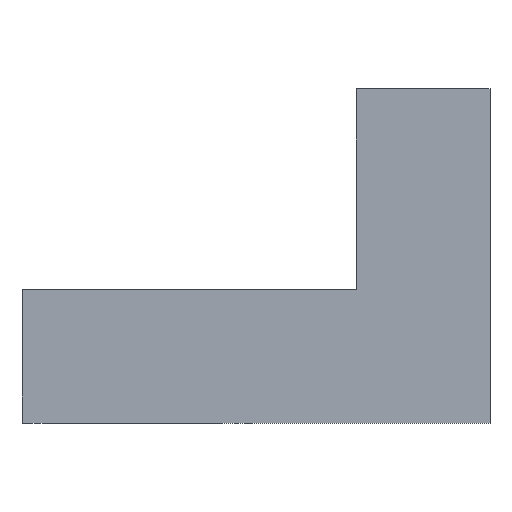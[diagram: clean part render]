
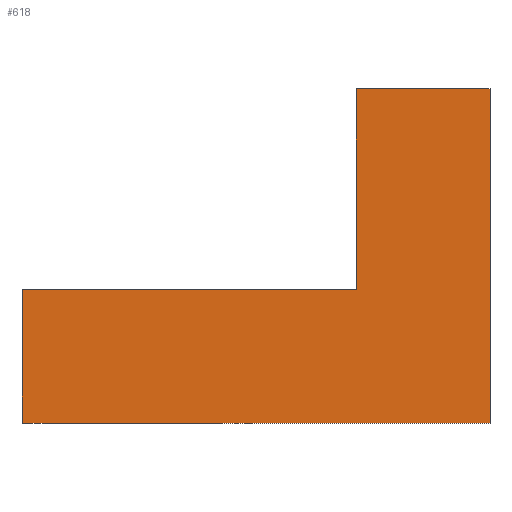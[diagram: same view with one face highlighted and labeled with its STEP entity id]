
A CAD part, front view. The second image highlights one B-rep face of the part: STEP entity #618.
In plain terms, the highlighted planar face has unit normal (0, -1, 0).
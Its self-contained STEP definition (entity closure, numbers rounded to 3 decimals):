
#191=CARTESIAN_POINT('Vertex',(40.,-64.,25.)) ;
#194=CARTESIAN_POINT('Line Origine',(45.,-64.,25.)) ;
#198=CARTESIAN_POINT('Vertex',(50.,-64.,25.)) ;
#217=CARTESIAN_POINT('Vertex',(40.,-64.,10.)) ;
#220=CARTESIAN_POINT('Line Origine',(40.,-64.,17.5)) ;
#552=CARTESIAN_POINT('Vertex',(15.,-64.,10.)) ;
#555=CARTESIAN_POINT('Line Origine',(27.5,-64.,10.)) ;
#586=CARTESIAN_POINT('Axis2P3D Location',(15.,-64.,0.)) ;
#591=CARTESIAN_POINT('Line Origine',(15.,-64.,5.)) ;
#595=CARTESIAN_POINT('Vertex',(15.,-64.,0.)) ;
#598=CARTESIAN_POINT('Line Origine',(32.5,-64.,0.)) ;
#602=CARTESIAN_POINT('Vertex',(50.,-64.,0.)) ;
#605=CARTESIAN_POINT('Line Origine',(50.,-64.,12.5)) ;
#195=DIRECTION('Vector Direction',(1.,0.,0.)) ;
#221=DIRECTION('Vector Direction',(0.,0.,-1.)) ;
#556=DIRECTION('Vector Direction',(1.,0.,0.)) ;
#587=DIRECTION('Axis2P3D Direction',(0.,-1.,0.)) ;
#588=DIRECTION('Axis2P3D XDirection',(1.,0.,0.)) ;
#592=DIRECTION('Vector Direction',(0.,0.,1.)) ;
#599=DIRECTION('Vector Direction',(1.,0.,0.)) ;
#606=DIRECTION('Vector Direction',(0.,0.,-1.)) ;
#589=AXIS2_PLACEMENT_3D('Plane Axis2P3D',#586,#587,#588) ;
#611=ORIENTED_EDGE('',*,*,#200,.F.) ;
#612=ORIENTED_EDGE('',*,*,#224,.T.) ;
#613=ORIENTED_EDGE('',*,*,#559,.F.) ;
#614=ORIENTED_EDGE('',*,*,#597,.F.) ;
#615=ORIENTED_EDGE('',*,*,#604,.T.) ;
#616=ORIENTED_EDGE('',*,*,#609,.F.) ;
#196=VECTOR('Line Direction',#195,1.) ;
#222=VECTOR('Line Direction',#221,1.) ;
#557=VECTOR('Line Direction',#556,1.) ;
#593=VECTOR('Line Direction',#592,1.) ;
#600=VECTOR('Line Direction',#599,1.) ;
#607=VECTOR('Line Direction',#606,1.) ;
#618=ADVANCED_FACE('Hauptk\X2\00F6\X0\rper',(#617),#590,.T.) ;
#200=EDGE_CURVE('',#192,#199,#197,.T.) ;
#224=EDGE_CURVE('',#192,#218,#223,.T.) ;
#559=EDGE_CURVE('',#553,#218,#558,.T.) ;
#597=EDGE_CURVE('',#596,#553,#594,.T.) ;
#604=EDGE_CURVE('',#596,#603,#601,.T.) ;
#609=EDGE_CURVE('',#199,#603,#608,.T.) ;
#610=EDGE_LOOP('',(#611,#612,#613,#614,#615,#616)) ;
#617=FACE_OUTER_BOUND('',#610,.T.) ;
#197=LINE('Line',#194,#196) ;
#223=LINE('Line',#220,#222) ;
#558=LINE('Line',#555,#557) ;
#594=LINE('Line',#591,#593) ;
#601=LINE('Line',#598,#600) ;
#608=LINE('Line',#605,#607) ;
#590=PLANE('',#589) ;
#192=VERTEX_POINT('',#191) ;
#199=VERTEX_POINT('',#198) ;
#218=VERTEX_POINT('',#217) ;
#553=VERTEX_POINT('',#552) ;
#596=VERTEX_POINT('',#595) ;
#603=VERTEX_POINT('',#602) ;
